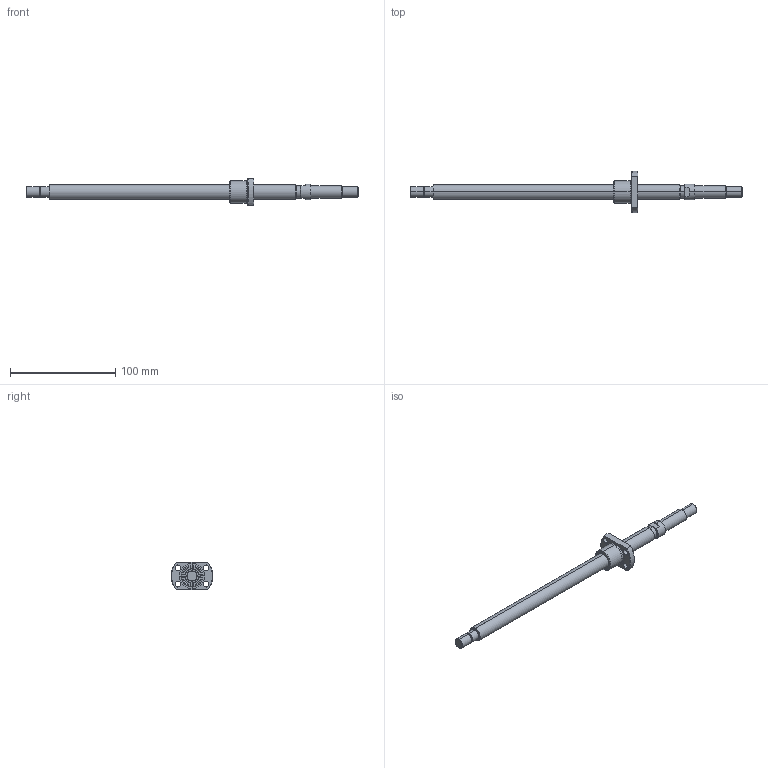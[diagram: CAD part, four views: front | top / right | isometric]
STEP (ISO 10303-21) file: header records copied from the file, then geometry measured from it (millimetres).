
FILE_DESCRIPTION (( 'STEP AP214' ), '1' );
FILE_NAME ('BS1402K-3D.STEP', '2014-03-05T15:12:57', ( '' ), ( '' ), 'SwSTEP 2.0', 'SolidWorks 2012', '' );
FILE_SCHEMA (( 'AUTOMOTIVE_DESIGN' ));
Length unit declared in the file: millimetre
Products named in the file (3): BS1402Kナット; BS1402KŽ²; BS1402K-3D
Assembly tree (2 placements, depth 2):
  BS1402K-3D
    BS1402KŽ²
    BS1402Kナット
Bounding box: 316 x 39.88 x 26 mm (x, y, z)
Volume: 82899 mm3; surface area: 29201.3 mm2
Topology: 5 solids, 5 shells, 104 faces, 224 edges, 142 vertices
Faces by surface type: cylinder 48, cone 28, plane 28
Entity records: 3037 total; most frequent: DIRECTION 558, CARTESIAN_POINT 511, ORIENTED_EDGE 448, AXIS2_PLACEMENT_3D 237, EDGE_CURVE 224, VERTEX_POINT 142, EDGE_LOOP 130, CIRCLE 128
